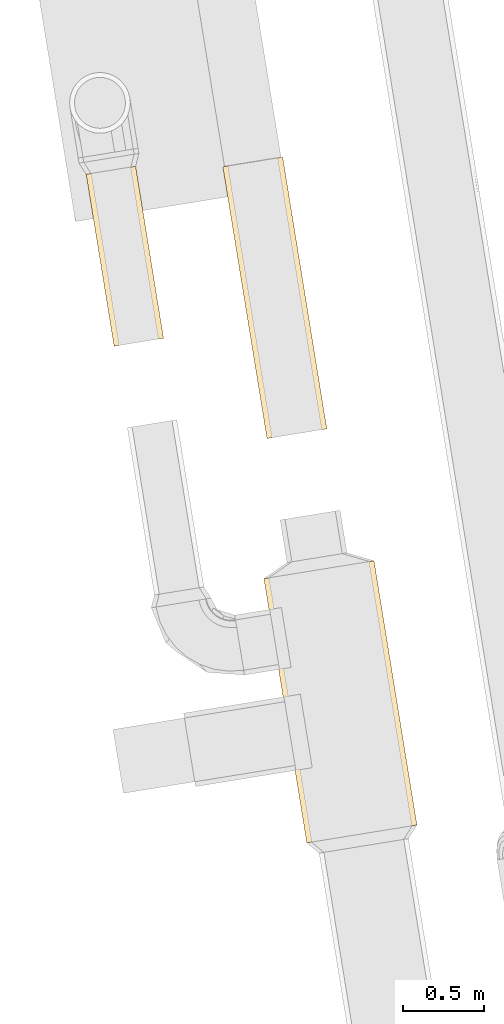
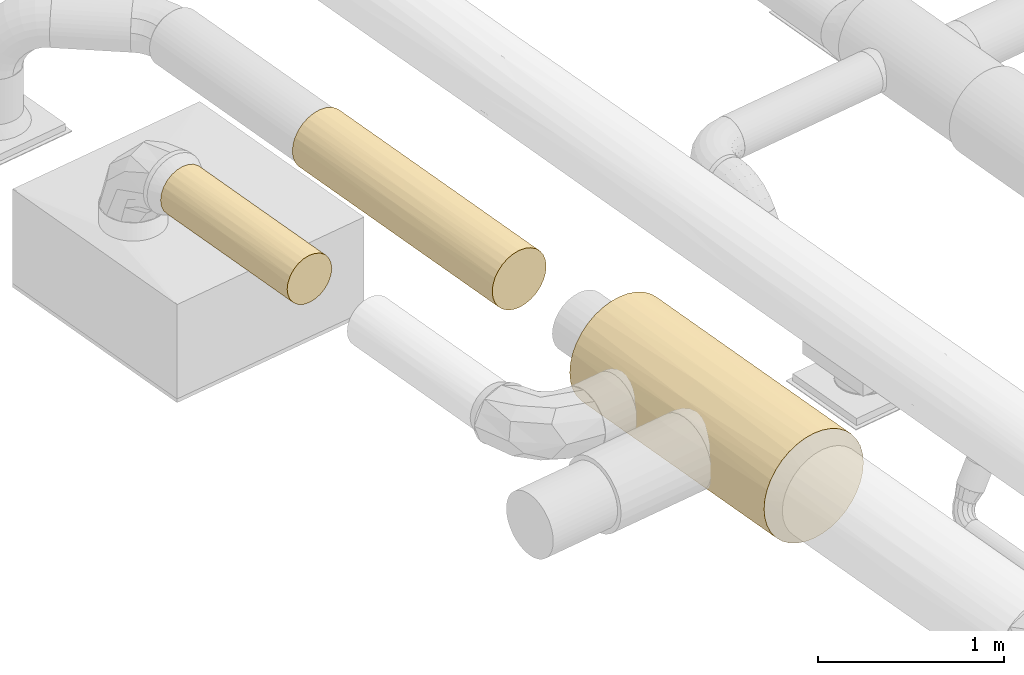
# One storey, part 5 of 39: 3 coverings.
"""IFC2X3 building model written with IfcOpenShell, lengths in millimetres."""

from ifc_helpers import new_model, entity, si_unit, converted_unit, derived_unit, direction, frame, origin, origin_with_axes, place, context, subcontext, project, spatial, faceted_brep, type_object, element, save


model = new_model("IFC2X3")

# Units and contexts
plan_context = context("Plan", 3, precision=1e-05, world=origin_with_axes())
model_context = context("Model", 3, precision=0.01, world=origin(), true_north=direction((6.12323399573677e-17, 1.0)))
body_context = subcontext(model_context, "Body", "Model", "MODEL_VIEW")
ifc_project = project(units=[converted_unit("PLANEANGLEUNIT", "DEGREE", entity("IfcPositiveLengthMeasure", 0.0174532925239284), si_unit("PLANEANGLEUNIT", "RADIAN"), dimensions=[0, 0, 0, 0, 0, 0, 0]), si_unit("AREAUNIT", "SQUARE_METRE"), si_unit("LENGTHUNIT", "METRE", prefix="MILLI"), si_unit("MASSUNIT", "GRAM", prefix="KILO"), si_unit("POWERUNIT", "WATT"), si_unit("PRESSUREUNIT", "PASCAL", prefix="KILO"), si_unit("FORCEUNIT", "NEWTON", prefix="KILO"), si_unit("ELECTRICVOLTAGEUNIT", "VOLT"), si_unit("ELECTRICCURRENTUNIT", "AMPERE"), si_unit("THERMODYNAMICTEMPERATUREUNIT", "DEGREE_CELSIUS"), si_unit("TIMEUNIT", "SECOND"), si_unit("VOLUMEUNIT", "CUBIC_METRE"), derived_unit("LINEARVELOCITYUNIT", [(si_unit("LENGTHUNIT", "METRE"), 1), (si_unit("TIMEUNIT", "SECOND"), -1)]), derived_unit("VOLUMETRICFLOWRATEUNIT", [(si_unit("VOLUMEUNIT", "CUBIC_METRE"), 1), (si_unit("TIMEUNIT", "SECOND"), -1)]), derived_unit("THERMALTRANSMITTANCEUNIT", [(si_unit("POWERUNIT", "WATT"), 1), (si_unit("THERMODYNAMICTEMPERATUREUNIT", "KELVIN"), -1), (si_unit("AREAUNIT", "SQUARE_METRE"), -1)]), derived_unit("SOUNDPRESSUREUNIT", [(si_unit("PRESSUREUNIT", "PASCAL"), 1)])], contexts=[model_context, plan_context])

# Site, building, storey
site_placement = place(None, frame((-0.00071070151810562, 0.00438415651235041, 0.0), z_axis=(0.0, 0.0, 1.0), x_axis=(-0.160236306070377, 0.987078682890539, 0.0)))
site = spatial("IfcSite", under=ifc_project, at=site_placement, Name="Default", CompositionType="ELEMENT")
building_placement = place(site_placement, origin_with_axes())
building = spatial("IfcBuilding", under=site, at=building_placement, CompositionType="ELEMENT")
storey_placement = place(building_placement, frame((0.0, 0.0, 58999.9999999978), z_axis=(0.0, 0.0, 1.0), x_axis=(1.0, 0.0, 0.0)))
storey = spatial("IfcBuildingStorey", under=building, at=storey_placement, Name="Nivå F", CompositionType="ELEMENT", Elevation=58999.9999999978)

# Coverings
covering_type = type_object("IfcCoveringType", Name="Duct Insulation:EI 60-30", PredefinedType="INSULATION")
covering_1_placement = place(storey_placement, frame((775323.610474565, -502525.429977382, 2783.43888074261), z_axis=(0.0, 0.0, 1.0), x_axis=(1.0, 0.0, 0.0)))
element("IfcCovering", 1, at=covering_1_placement, inside=storey, type_object=covering_type, Name="Duct Insulation:EI 60-30", ObjectType="Duct Insulation:EI 60-30", PredefinedType="INSULATION", context=body_context, shape_type="Brep", body=[
    faceted_brep([(0.0, 22.4013180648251, 228.598322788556), (0.0, 6.83659744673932, 286.686650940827), (0.0, 1.59527223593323, 346.595272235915), (0.0, 6.83659744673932, 406.503893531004), (0.0, 22.4013180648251, 464.592221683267), (0.0, 47.8165079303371, 519.095272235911), (0.0, 82.3099393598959, 568.356997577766), (0.0, 124.833546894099, 610.880605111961), (0.0, 174.095272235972, 645.374036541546), (0.0, 228.598322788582, 670.789226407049), (0.0, 286.686650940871, 686.353947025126), (0.0, 346.595272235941, 691.595272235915), (0.0, 406.503893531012, 686.353947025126), (0.0, 464.592221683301, 670.789226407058), (0.0, 519.095272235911, 645.374036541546), (0.0, 568.356997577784, 610.880605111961), (0.0, 610.880605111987, 568.356997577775), (0.0, 645.374036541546, 519.09527223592), (0.0, 670.789226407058, 464.592221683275), (0.0, 686.353947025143, 406.503893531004), (0.0, 691.59527223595, 346.595272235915), (0.0, 686.353947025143, 286.686650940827), (0.0, 670.789226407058, 228.598322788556), (0.0, 645.374036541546, 174.095272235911), (0.0, 610.880605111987, 124.833546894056), (0.0, 568.356997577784, 82.3099393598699), (0.0, 519.095272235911, 47.8165079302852), (0.0, 464.592221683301, 22.4013180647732), (0.0, 406.503893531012, 6.83659744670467), (0.0, 346.595272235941, 1.5952722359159), (0.0, 286.686650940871, 6.83659744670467), (0.0, 228.598322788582, 22.4013180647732), (0.0, 174.095272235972, 47.8165079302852), (0.0, 124.833546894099, 82.3099393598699), (0.0, 82.3099393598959, 124.833546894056), (0.0, 47.8165079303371, 174.095272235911), (1655.0, 47.8165079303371, 174.095272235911), (1655.0, 82.3099393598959, 124.833546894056), (1655.0, 124.833546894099, 82.3099393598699), (1655.0, 174.095272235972, 47.8165079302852), (1655.0, 228.598322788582, 22.4013180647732), (1655.0, 286.686650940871, 6.83659744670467), (1655.0, 346.595272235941, 1.5952722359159), (1655.0, 406.503893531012, 6.83659744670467), (1655.0, 464.592221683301, 22.4013180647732), (1655.0, 519.095272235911, 47.8165079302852), (1655.0, 568.356997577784, 82.3099393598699), (1655.0, 610.880605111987, 124.833546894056), (1655.0, 645.374036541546, 174.095272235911), (1655.0, 670.789226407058, 228.598322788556), (1655.0, 686.353947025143, 286.686650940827), (1655.0, 691.59527223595, 346.595272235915), (1655.0, 686.353947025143, 406.503893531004), (1655.0, 670.789226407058, 464.592221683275), (1655.0, 645.374036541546, 519.09527223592), (1655.0, 610.880605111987, 568.356997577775), (1655.0, 568.356997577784, 610.880605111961), (1655.0, 519.095272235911, 645.374036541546), (1655.0, 464.592221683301, 670.789226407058), (1655.0, 406.503893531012, 686.353947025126), (1655.0, 346.595272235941, 691.595272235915), (1655.0, 286.686650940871, 686.353947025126), (1655.0, 228.598322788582, 670.789226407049), (1655.0, 174.095272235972, 645.374036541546), (1655.0, 124.833546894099, 610.880605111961), (1655.0, 82.3099393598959, 568.356997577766), (1655.0, 47.8165079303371, 519.095272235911), (1655.0, 22.4013180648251, 464.592221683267), (1655.0, 6.83659744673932, 406.503893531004), (1655.0, 1.59527223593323, 346.595272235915), (1655.0, 6.83659744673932, 286.686650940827), (1655.0, 22.4013180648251, 228.598322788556), (827.499999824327, 659.271458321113, 200.791970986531), (827.460158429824, 683.60436996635, 272.772050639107), (648.55534188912, 691.595272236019, 346.595272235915), (827.500000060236, 590.5471115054, 102.643432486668), (827.499999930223, 531.227786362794, 55.1577408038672), (827.500000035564, 435.887842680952, 13.3508621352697), (827.499999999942, 346.595272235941, 1.5952722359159), (1006.44467841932, 346.595272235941, 1.5952722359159), (827.499999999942, 691.59527223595, 346.595272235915), (827.539843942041, 272.772053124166, 9.58617396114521), (827.500000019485, 200.79197188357, 33.9190857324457), (827.500000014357, 102.64343269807, 102.643432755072), (827.499999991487, 55.1577407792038, 161.96275814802), (827.500000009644, 13.3508621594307, 257.302701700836), (827.499999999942, 1.59527223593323, 346.595272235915), (1006.44468043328, 1.59527223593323, 346.595272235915), (827.539846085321, 9.58617395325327, 420.418491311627), (827.500000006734, 33.9190857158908, 492.398572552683), (827.500000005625, 102.64343273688, 590.547111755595), (827.499999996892, 161.962758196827, 638.032803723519), (827.500000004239, 257.302701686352, 679.839682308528), (827.499999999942, 346.595272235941, 691.595272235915), (1006.44468109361, 346.595272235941, 691.595272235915), (827.539846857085, 420.418491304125, 683.604370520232), (827.500000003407, 492.398572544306, 659.271458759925), (827.500000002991, 590.547111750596, 590.54711174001), (827.499999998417, 638.032803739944, 531.227786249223), (827.500000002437, 679.839682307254, 435.887842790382)], [[[0, 1, 2, 3, 4, 5, 6, 7, 8, 9, 10, 11, 12, 13, 14, 15, 16, 17, 18, 19, 20, 21, 22, 23, 24, 25, 26, 27, 28, 29, 30, 31, 32, 33, 34, 35]], [[36, 37, 38, 39, 40, 41, 42, 43, 44, 45, 46, 47, 48, 49, 50, 51, 52, 53, 54, 55, 56, 57, 58, 59, 60, 61, 62, 63, 64, 65, 66, 67, 68, 69, 70, 71]], [[72, 22, 73]], [[23, 22, 72]], [[49, 48, 72]], [[73, 21, 74]], [[75, 72, 47]], [[49, 72, 73]], [[50, 73, 51]], [[21, 20, 74]], [[21, 73, 22]], [[25, 24, 75]], [[47, 72, 48]], [[24, 23, 72]], [[76, 46, 45]], [[46, 75, 47]], [[76, 75, 46]], [[44, 43, 77]], [[43, 78, 77]], [[77, 76, 44]], [[43, 42, 79, 78]], [[29, 28, 78]], [[28, 27, 77]], [[76, 25, 75]], [[27, 76, 77]], [[26, 76, 27]], [[76, 45, 44]], [[49, 73, 50]], [[77, 78, 28]], [[73, 74, 80, 51]], [[25, 76, 26]], [[24, 72, 75]], [[40, 81, 41]], [[40, 39, 82]], [[79, 41, 81]], [[83, 82, 39, 38]], [[81, 29, 78, 79]], [[41, 79, 42]], [[30, 81, 31]], [[34, 33, 83]], [[84, 37, 36]], [[33, 32, 82, 83]], [[32, 31, 82]], [[37, 83, 38]], [[40, 82, 81]], [[84, 83, 37]], [[71, 70, 85]], [[70, 86, 85]], [[85, 84, 71]], [[70, 69, 87, 86]], [[2, 1, 86]], [[1, 0, 85]], [[84, 34, 83]], [[0, 84, 85]], [[35, 84, 0]], [[84, 36, 71]], [[29, 81, 30]], [[85, 86, 1]], [[31, 81, 82]], [[34, 84, 35]], [[67, 88, 68]], [[67, 66, 89]], [[87, 68, 88]], [[90, 89, 66, 65]], [[88, 2, 86, 87]], [[68, 87, 69]], [[3, 88, 4]], [[7, 6, 90]], [[91, 64, 63]], [[6, 5, 89, 90]], [[5, 4, 89]], [[64, 90, 65]], [[67, 89, 88]], [[91, 90, 64]], [[62, 61, 92]], [[61, 93, 92]], [[92, 91, 62]], [[61, 60, 94, 93]], [[11, 10, 93]], [[10, 9, 92]], [[91, 7, 90]], [[9, 91, 92]], [[8, 91, 9]], [[91, 63, 62]], [[2, 88, 3]], [[92, 93, 10]], [[4, 88, 89]], [[7, 91, 8]], [[58, 95, 59]], [[58, 57, 96]], [[94, 59, 95]], [[97, 96, 57, 56]], [[95, 11, 93, 94]], [[59, 94, 60]], [[12, 95, 13]], [[16, 15, 97]], [[98, 55, 54]], [[15, 14, 96, 97]], [[14, 13, 96]], [[55, 97, 56]], [[58, 96, 95]], [[98, 97, 55]], [[53, 52, 99]], [[52, 80, 99]], [[99, 98, 53]], [[52, 51, 80]], [[19, 80, 74, 20]], [[19, 18, 99]], [[98, 16, 97]], [[18, 98, 99]], [[17, 98, 18]], [[98, 54, 53]], [[11, 95, 12]], [[99, 80, 19]], [[13, 95, 96]], [[16, 98, 17]]]),
])
covering_2_placement = place(storey_placement, frame((778545.119644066, -501461.304889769, 2973.40472776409), z_axis=(0.0, 0.0, 1.0), x_axis=(1.0, 0.0, 0.0)))
element("IfcCovering", 2, at=covering_2_placement, inside=storey, type_object=covering_type, Name="Duct Insulation:EI 60-30", ObjectType="Duct Insulation:EI 60-30", PredefinedType="INSULATION", context=body_context, shape_type="Brep", body=[
    faceted_brep([(1077.49999999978, 306.313775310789, 116.478320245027), (1077.49999999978, 311.595272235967, 156.595272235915), (1077.49999999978, 306.313775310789, 196.712224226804), (1077.49999999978, 290.82920982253, 234.095272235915), (1077.49999999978, 266.196823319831, 266.196823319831), (1077.49999999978, 234.095272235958, 290.829209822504), (1077.49999999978, 196.712224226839, 306.31377531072), (1077.49999999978, 156.59527223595, 311.595272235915), (1077.49999999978, 116.478320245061, 306.31377531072), (1077.49999999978, 79.0952722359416, 290.829209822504), (1077.49999999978, 46.9937211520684, 266.196823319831), (1077.49999999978, 22.3613346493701, 234.095272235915), (1077.49999999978, 6.8767691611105, 196.712224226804), (1077.49999999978, 1.59527223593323, 156.595272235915), (1077.49999999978, 6.8767691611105, 116.478320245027), (1077.49999999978, 22.3613346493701, 79.0952722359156), (1077.49999999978, 46.9937211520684, 46.9937211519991), (1077.49999999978, 79.0952722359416, 22.3613346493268), (1077.49999999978, 116.478320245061, 6.8767691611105), (1077.49999999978, 156.59527223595, 1.5952722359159), (1077.49999999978, 196.712224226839, 6.8767691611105), (1077.49999999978, 234.095272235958, 22.3613346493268), (1077.49999999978, 266.196823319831, 46.9937211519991), (1077.49999999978, 290.82920982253, 79.0952722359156), (0.0, 290.82920982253, 79.0952722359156), (0.0, 266.196823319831, 46.9937211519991), (0.0, 234.095272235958, 22.3613346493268), (0.0, 196.712224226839, 6.8767691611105), (0.0, 156.59527223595, 1.5952722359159), (0.0, 116.478320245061, 6.8767691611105), (0.0, 79.0952722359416, 22.3613346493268), (0.0, 46.9937211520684, 46.9937211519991), (0.0, 22.3613346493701, 79.0952722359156), (0.0, 6.8767691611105, 116.478320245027), (0.0, 1.59527223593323, 156.595272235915), (0.0, 6.8767691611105, 196.712224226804), (0.0, 22.3613346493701, 234.095272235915), (0.0, 46.9937211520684, 266.196823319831), (0.0, 79.0952722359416, 290.829209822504), (0.0, 116.478320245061, 306.31377531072), (0.0, 156.59527223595, 311.595272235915), (0.0, 196.712224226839, 306.31377531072), (0.0, 234.095272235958, 290.829209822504), (0.0, 266.196823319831, 266.196823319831), (0.0, 290.82920982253, 234.095272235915), (0.0, 306.313775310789, 196.712224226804), (0.0, 311.595272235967, 156.595272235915), (0.0, 306.313775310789, 116.478320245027), (538.750000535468, 33.6255045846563, 62.2372506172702), (538.749997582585, 13.39394495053, 97.2793396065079), (593.162875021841, 127.011629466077, 4.44466237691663), (434.714645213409, 156.59527223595, 1.5952722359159), (642.784745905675, 156.595272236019, 1.5952722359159), (593.162863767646, 4.44466264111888, 127.011628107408), (434.713715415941, 1.59527223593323, 156.595272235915), (538.750000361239, 62.2372507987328, 33.6255044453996), (538.749999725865, 97.2793403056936, 13.3939446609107), (538.749999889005, 215.911204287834, 13.3939447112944), (484.337125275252, 186.178915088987, 4.44466239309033), (593.162875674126, 308.745882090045, 127.011629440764), (538.749999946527, 299.796599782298, 97.2793402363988), (538.750000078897, 250.953293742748, 33.6255044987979), (434.713700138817, 311.595272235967, 156.595272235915), (642.786299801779, 311.595272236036, 156.595272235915), (538.750000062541, 279.565039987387, 62.23725074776), (538.74999996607, 299.796599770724, 215.911204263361), (484.337124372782, 308.745882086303, 186.17891505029), (593.162875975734, 186.178915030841, 308.745882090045), (538.749999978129, 215.911204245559, 299.79659977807), (538.750000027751, 279.565039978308, 250.953293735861), (434.713699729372, 156.59527223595, 311.595272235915), (642.786300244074, 156.59527223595, 311.595272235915), (538.750000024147, 250.953293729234, 279.565039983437), (538.749999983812, 97.2793402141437, 299.796599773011), (484.337124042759, 127.011629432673, 308.745882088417), (593.162876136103, 4.44466238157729, 186.178915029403), (538.749999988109, 13.3939446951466, 215.911204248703), (538.750000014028, 62.237250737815, 279.565039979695), (538.750000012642, 33.6255044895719, 250.953293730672)], [[[0, 1, 2, 3, 4, 5, 6, 7, 8, 9, 10, 11, 12, 13, 14, 15, 16, 17, 18, 19, 20, 21, 22, 23]], [[24, 25, 26, 27, 28, 29, 30, 31, 32, 33, 34, 35, 36, 37, 38, 39, 40, 41, 42, 43, 44, 45, 46, 47]], [[48, 49, 32]], [[50, 51, 52, 19]], [[33, 32, 49]], [[33, 49, 53]], [[53, 49, 14]], [[33, 54, 34]], [[55, 48, 31]], [[32, 31, 48]], [[49, 48, 15]], [[54, 53, 13]], [[48, 16, 15]], [[14, 49, 15]], [[56, 30, 29]], [[13, 53, 14]], [[56, 55, 30]], [[19, 18, 50]], [[16, 48, 55]], [[55, 17, 16]], [[50, 18, 56]], [[56, 17, 55]], [[31, 30, 55]], [[17, 56, 18]], [[29, 28, 51]], [[33, 53, 54]], [[29, 50, 56]], [[29, 51, 50]], [[57, 58, 27]], [[47, 59, 60]], [[58, 52, 51, 28]], [[57, 27, 26]], [[20, 19, 52]], [[58, 28, 27]], [[20, 57, 21]], [[20, 52, 58]], [[21, 57, 61]], [[61, 57, 26]], [[61, 22, 21]], [[59, 62, 63, 1]], [[60, 24, 47]], [[47, 46, 62]], [[59, 0, 60]], [[1, 0, 59]], [[22, 61, 64]], [[64, 23, 22]], [[47, 62, 59]], [[60, 23, 64]], [[25, 24, 64]], [[64, 61, 25]], [[23, 60, 0]], [[60, 64, 24]], [[20, 58, 57]], [[26, 25, 61]], [[65, 66, 45]], [[41, 67, 68]], [[66, 63, 62, 46]], [[65, 45, 44]], [[2, 1, 63]], [[66, 46, 45]], [[2, 65, 3]], [[2, 63, 66]], [[3, 65, 69]], [[69, 65, 44]], [[69, 4, 3]], [[67, 70, 71, 7]], [[68, 42, 41]], [[41, 40, 70]], [[67, 6, 68]], [[7, 6, 67]], [[4, 69, 72]], [[72, 5, 4]], [[41, 70, 67]], [[68, 5, 72]], [[43, 42, 72]], [[72, 69, 43]], [[5, 68, 6]], [[68, 72, 42]], [[2, 66, 65]], [[44, 43, 69]], [[73, 74, 39]], [[35, 75, 76]], [[74, 71, 70, 40]], [[73, 39, 38]], [[8, 7, 71]], [[74, 40, 39]], [[8, 73, 9]], [[8, 71, 74]], [[9, 73, 77]], [[77, 73, 38]], [[77, 10, 9]], [[13, 75, 54]], [[76, 36, 35]], [[35, 34, 54]], [[75, 12, 76]], [[13, 12, 75]], [[10, 77, 78]], [[78, 11, 10]], [[35, 54, 75]], [[76, 11, 78]], [[37, 36, 78]], [[78, 77, 37]], [[11, 76, 12]], [[76, 78, 36]], [[8, 74, 73]], [[38, 37, 77]]]),
])
covering_3_placement = place(storey_placement, frame((777830.476763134, -502367.929977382, 2940.93888074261), z_axis=(0.0, 0.0, 1.0), x_axis=(1.0, 0.0, 0.0)))
element("IfcCovering", 3, at=covering_3_placement, inside=storey, type_object=covering_type, Name="Duct Insulation:EI 60-30", ObjectType="Duct Insulation:EI 60-30", PredefinedType="INSULATION", context=body_context, shape_type="Brep", body=[
    faceted_brep([(0.0, 42.5018692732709, 72.1909343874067), (0.0, 20.1636095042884, 107.742071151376), (0.0, 6.29628870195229, 147.372597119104), (0.0, 1.59527223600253, 189.095272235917), (0.0, 6.29628870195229, 230.817947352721), (0.0, 20.1636095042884, 270.448473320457), (0.0, 42.5018692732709, 305.999610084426), (0.0, 72.190934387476, 335.688675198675), (0.0, 107.742071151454, 358.026934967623), (0.0, 147.372597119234, 371.894255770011), (0.0, 189.095272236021, 376.595272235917), (0.0, 230.817947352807, 371.894255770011), (0.0, 270.448473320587, 358.026934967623), (0.0, 305.999610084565, 335.688675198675), (0.0, 335.68867519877, 305.999610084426), (0.0, 358.026934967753, 270.448473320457), (0.0, 371.894255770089, 230.817947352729), (0.0, 376.595272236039, 189.095272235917), (0.0, 371.894255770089, 147.372597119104), (0.0, 358.026934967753, 107.742071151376), (0.0, 335.68867519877, 72.1909343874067), (0.0, 305.999610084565, 42.5018692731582), (0.0, 270.448473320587, 20.1636095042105), (0.0, 230.817947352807, 6.29628870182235), (0.0, 189.095272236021, 1.5952722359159), (0.0, 147.372597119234, 6.29628870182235), (0.0, 107.742071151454, 20.1636095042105), (0.0, 72.190934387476, 42.5018692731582), (1701.86628856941, 6.29628870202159, 147.372597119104), (1701.86628856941, 20.1636095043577, 107.742071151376), (1701.86628856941, 42.5018692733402, 72.1909343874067), (1701.86628856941, 72.1909343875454, 42.5018692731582), (1701.86628856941, 107.742071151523, 20.1636095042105), (1701.86628856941, 147.372597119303, 6.29628870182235), (1701.86628856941, 189.09527223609, 1.5952722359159), (1701.86628856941, 230.817947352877, 6.29628870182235), (1701.86628856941, 270.448473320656, 20.1636095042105), (1701.86628856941, 305.999610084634, 42.5018692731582), (1701.86628856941, 335.68867519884, 72.1909343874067), (1701.86628856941, 358.026934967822, 107.742071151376), (1701.86628856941, 371.894255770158, 147.372597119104), (1701.86628856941, 376.595272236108, 189.095272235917), (1701.86628856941, 371.894255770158, 230.817947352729), (1701.86628856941, 358.026934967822, 270.448473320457), (1701.86628856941, 335.68867519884, 305.999610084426), (1701.86628856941, 305.999610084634, 335.688675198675), (1701.86628856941, 270.448473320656, 358.026934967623), (1701.86628856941, 230.817947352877, 371.894255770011), (1701.86628856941, 189.09527223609, 376.595272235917), (1701.86628856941, 147.372597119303, 371.894255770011), (1701.86628856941, 107.742071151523, 358.026934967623), (1701.86628856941, 72.1909343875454, 335.688675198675), (1701.86628856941, 42.5018692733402, 305.999610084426), (1701.86628856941, 20.1636095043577, 270.448473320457), (1701.86628856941, 6.29628870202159, 230.817947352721), (1701.86628856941, 1.59527223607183, 189.095272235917), (775.046826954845, 369.238644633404, 137.089355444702), (850.933145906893, 347.856059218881, 89.3392572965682), (745.623615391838, 376.595272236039, 189.095272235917), (745.624123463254, 189.095272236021, 1.5952722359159), (775.046817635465, 241.101187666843, 8.95189944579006), (1196.75554941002, 321.677793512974, 56.5127505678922), (850.933144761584, 288.85128635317, 30.3344847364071), (601.119222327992, 321.677793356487, 56.5127504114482), (956.244520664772, 189.095272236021, 1.5952722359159), (926.81947033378, 137.089356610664, 8.95189950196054), (850.933144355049, 30.3344848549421, 89.3392579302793), (1196.75554748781, 56.5127507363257, 56.5127507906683), (850.933144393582, 89.3392578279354, 30.3344849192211), (601.11922034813, 56.512750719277, 56.5127508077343), (775.046816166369, 8.95189948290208, 137.089356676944), (745.623638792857, 1.59527223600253, 189.095272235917), (956.242649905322, 1.59527223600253, 189.095272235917), (926.819472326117, 8.9518994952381, 241.101187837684), (850.93314431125, 89.3392579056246, 347.85605960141), (1196.75554702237, 56.5127507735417, 321.677793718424), (850.933144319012, 30.3344848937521, 288.851286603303), (601.119219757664, 56.5127507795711, 321.677793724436), (775.046815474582, 137.089356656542, 369.238644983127), (745.623639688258, 189.095272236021, 376.595272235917), (956.242648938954, 189.095272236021, 376.595272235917), (926.819473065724, 241.101187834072, 369.238644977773), (850.933144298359, 347.856059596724, 288.851286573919), (1196.75554682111, 321.677793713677, 321.677793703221), (850.93314430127, 288.85128659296, 347.856059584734), (601.119219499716, 321.677793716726, 321.677793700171), (775.046815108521, 369.2386449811, 241.101187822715)], [[[0, 1, 2, 3, 4, 5, 6, 7, 8, 9, 10, 11, 12, 13, 14, 15, 16, 17, 18, 19, 20, 21, 22, 23, 24, 25, 26, 27]], [[28, 29, 30, 31, 32, 33, 34, 35, 36, 37, 38, 39, 40, 41, 42, 43, 44, 45, 46, 47, 48, 49, 50, 51, 52, 53, 54, 55]], [[39, 56, 40]], [[57, 56, 39]], [[56, 18, 58]], [[19, 57, 20]], [[57, 39, 38]], [[17, 58, 18]], [[41, 40, 58]], [[59, 23, 60]], [[38, 37, 61]], [[56, 19, 18]], [[21, 62, 22]], [[20, 57, 63]], [[36, 35, 60]], [[62, 37, 36]], [[57, 61, 63]], [[60, 35, 59]], [[57, 38, 61]], [[62, 61, 37]], [[59, 24, 23]], [[35, 34, 64, 59]], [[19, 56, 57]], [[62, 21, 63]], [[60, 62, 36]], [[60, 22, 62]], [[40, 56, 58]], [[22, 60, 23]], [[20, 63, 21]], [[62, 63, 61]], [[65, 64, 33]], [[65, 25, 64]], [[66, 67, 30]], [[68, 67, 69]], [[68, 32, 31]], [[68, 65, 32]], [[33, 64, 34]], [[25, 24, 59, 64]], [[26, 68, 27]], [[65, 26, 25]], [[31, 30, 67]], [[27, 68, 69]], [[66, 30, 29]], [[27, 69, 0]], [[70, 28, 71]], [[1, 70, 2]], [[70, 66, 29]], [[71, 3, 2]], [[28, 55, 72, 71]], [[0, 66, 1]], [[66, 0, 69]], [[70, 1, 66]], [[32, 65, 33]], [[71, 2, 70]], [[65, 68, 26]], [[66, 69, 67]], [[68, 31, 67]], [[29, 28, 70]], [[73, 72, 54]], [[73, 4, 72]], [[74, 75, 51]], [[76, 75, 77]], [[76, 53, 52]], [[76, 73, 53]], [[54, 72, 55]], [[4, 3, 71, 72]], [[5, 76, 6]], [[73, 5, 4]], [[52, 51, 75]], [[6, 76, 77]], [[74, 51, 50]], [[6, 77, 7]], [[78, 49, 79]], [[8, 78, 9]], [[78, 74, 50]], [[79, 10, 9]], [[49, 48, 80, 79]], [[7, 74, 8]], [[74, 7, 77]], [[78, 8, 74]], [[53, 73, 54]], [[79, 9, 78]], [[73, 76, 5]], [[74, 77, 75]], [[76, 52, 75]], [[50, 49, 78]], [[81, 80, 47]], [[81, 11, 80]], [[82, 83, 44]], [[84, 83, 85]], [[84, 46, 45]], [[84, 81, 46]], [[47, 80, 48]], [[11, 10, 79, 80]], [[12, 84, 13]], [[81, 12, 11]], [[45, 44, 83]], [[13, 84, 85]], [[82, 44, 43]], [[13, 85, 14]], [[86, 42, 58]], [[15, 86, 16]], [[86, 82, 43]], [[58, 17, 16]], [[42, 41, 58]], [[14, 82, 15]], [[82, 14, 85]], [[86, 15, 82]], [[46, 81, 47]], [[58, 16, 86]], [[81, 84, 12]], [[82, 85, 83]], [[84, 45, 83]], [[43, 42, 86]]]),
])

save(model, "model.ifc")
